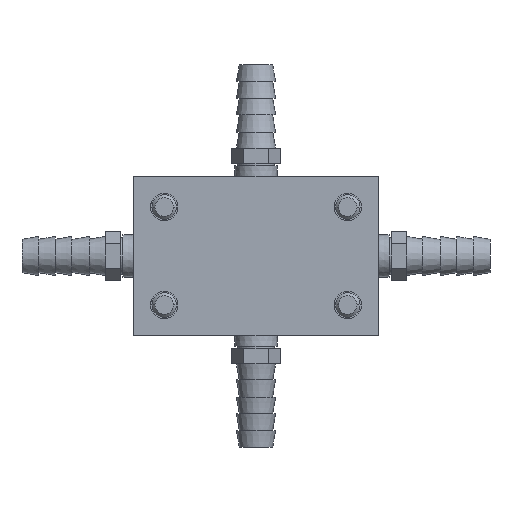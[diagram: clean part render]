
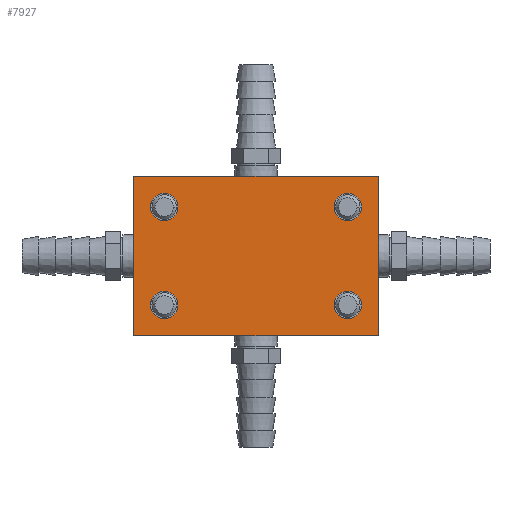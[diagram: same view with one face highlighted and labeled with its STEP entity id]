
A CAD part, left-side view. The second image highlights one B-rep face of the part: STEP entity #7927.
In plain terms, the highlighted planar face has unit normal (-1, 0, 0).
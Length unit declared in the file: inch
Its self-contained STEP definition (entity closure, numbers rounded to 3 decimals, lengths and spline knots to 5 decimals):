
#7665=CARTESIAN_POINT('',(-3.125,-0.9375,-0.5));
#7666=DIRECTION('',(1.,0.,0.));
#7667=DIRECTION('',(0.,-1.,0.));
#7668=AXIS2_PLACEMENT_3D('',#7665,#7666,#7667);
#7670=CARTESIAN_POINT('',(-3.125,-0.9375,-0.5));
#7671=DIRECTION('',(1.,0.,0.));
#7672=DIRECTION('',(0.,1.,0.));
#7673=AXIS2_PLACEMENT_3D('',#7670,#7671,#7672);
#7675=CARTESIAN_POINT('',(-3.125,0.9375,-0.5));
#7676=DIRECTION('',(1.,0.,0.));
#7677=DIRECTION('',(0.,-1.,0.));
#7678=AXIS2_PLACEMENT_3D('',#7675,#7676,#7677);
#7680=CARTESIAN_POINT('',(-3.125,0.9375,-0.5));
#7681=DIRECTION('',(1.,0.,0.));
#7682=DIRECTION('',(0.,1.,0.));
#7683=AXIS2_PLACEMENT_3D('',#7680,#7681,#7682);
#7685=CARTESIAN_POINT('',(-3.125,0.9375,0.5));
#7686=DIRECTION('',(1.,0.,0.));
#7687=DIRECTION('',(0.,-1.,0.));
#7688=AXIS2_PLACEMENT_3D('',#7685,#7686,#7687);
#7690=CARTESIAN_POINT('',(-3.125,0.9375,0.5));
#7691=DIRECTION('',(1.,0.,0.));
#7692=DIRECTION('',(0.,1.,0.));
#7693=AXIS2_PLACEMENT_3D('',#7690,#7691,#7692);
#7695=CARTESIAN_POINT('',(-3.125,-0.9375,0.5));
#7696=DIRECTION('',(1.,0.,0.));
#7697=DIRECTION('',(0.,-1.,0.));
#7698=AXIS2_PLACEMENT_3D('',#7695,#7696,#7697);
#7700=CARTESIAN_POINT('',(-3.125,-0.9375,0.5));
#7701=DIRECTION('',(1.,0.,0.));
#7702=DIRECTION('',(0.,1.,0.));
#7703=AXIS2_PLACEMENT_3D('',#7700,#7701,#7702);
#7797=DIRECTION('',(0.,0.,-1.));
#7798=VECTOR('',#7797,1.625);
#7799=CARTESIAN_POINT('',(-3.125,-1.25,0.8125));
#7800=LINE('',#7799,#7798);
#7805=DIRECTION('',(0.,1.,0.));
#7806=VECTOR('',#7805,2.5);
#7807=CARTESIAN_POINT('',(-3.125,-1.25,-0.8125));
#7808=LINE('',#7807,#7806);
#7809=DIRECTION('',(0.,0.,1.));
#7810=VECTOR('',#7809,1.625);
#7811=CARTESIAN_POINT('',(-3.125,1.25,-0.8125));
#7812=LINE('',#7811,#7810);
#7817=DIRECTION('',(0.,-1.,0.));
#7818=VECTOR('',#7817,2.5);
#7819=CARTESIAN_POINT('',(-3.125,1.25,0.8125));
#7820=LINE('',#7819,#7818);
#7829=CARTESIAN_POINT('',(-3.125,-1.25,-0.8125));
#7830=CARTESIAN_POINT('',(-3.125,1.25,-0.8125));
#7831=VERTEX_POINT('',#7829);
#7832=VERTEX_POINT('',#7830);
#7835=CARTESIAN_POINT('',(-3.125,-1.25,0.8125));
#7836=VERTEX_POINT('',#7835);
#7837=CARTESIAN_POINT('',(-3.125,1.25,0.8125));
#7838=VERTEX_POINT('',#7837);
#7841=CARTESIAN_POINT('',(-3.125,1.07813,0.5));
#7843=VERTEX_POINT('',#7841);
#7845=CARTESIAN_POINT('',(-3.125,0.79688,0.5));
#7847=VERTEX_POINT('',#7845);
#7849=CARTESIAN_POINT('',(-3.125,-0.79688,0.5));
#7851=VERTEX_POINT('',#7849);
#7853=CARTESIAN_POINT('',(-3.125,-1.07813,0.5));
#7855=VERTEX_POINT('',#7853);
#7857=CARTESIAN_POINT('',(-3.125,1.07813,-0.5));
#7859=VERTEX_POINT('',#7857);
#7861=CARTESIAN_POINT('',(-3.125,0.79688,-0.5));
#7863=VERTEX_POINT('',#7861);
#7865=CARTESIAN_POINT('',(-3.125,-0.79688,-0.5));
#7867=VERTEX_POINT('',#7865);
#7869=CARTESIAN_POINT('',(-3.125,-1.07813,-0.5));
#7871=VERTEX_POINT('',#7869);
#7889=CARTESIAN_POINT('',(-3.125,0.,0.));
#7890=DIRECTION('',(1.,0.,0.));
#7891=DIRECTION('',(0.,-1.,0.));
#7892=AXIS2_PLACEMENT_3D('',#7889,#7890,#7891);
#7893=PLANE('',#7892);
#7895=ORIENTED_EDGE('',*,*,#7894,.T.);
#7897=ORIENTED_EDGE('',*,*,#7896,.T.);
#7899=ORIENTED_EDGE('',*,*,#7898,.T.);
#7901=ORIENTED_EDGE('',*,*,#7900,.T.);
#7902=EDGE_LOOP('',(#7895,#7897,#7899,#7901));
#7903=FACE_OUTER_BOUND('',#7902,.F.);
#7905=ORIENTED_EDGE('',*,*,#7904,.F.);
#7907=ORIENTED_EDGE('',*,*,#7906,.F.);
#7908=EDGE_LOOP('',(#7905,#7907));
#7909=FACE_BOUND('',#7908,.F.);
#7910=ORIENTED_EDGE('',*,*,#7878,.F.);
#7912=ORIENTED_EDGE('',*,*,#7911,.F.);
#7913=EDGE_LOOP('',(#7910,#7912));
#7914=FACE_BOUND('',#7913,.F.);
#7916=ORIENTED_EDGE('',*,*,#7915,.F.);
#7918=ORIENTED_EDGE('',*,*,#7917,.F.);
#7919=EDGE_LOOP('',(#7916,#7918));
#7920=FACE_BOUND('',#7919,.F.);
#7922=ORIENTED_EDGE('',*,*,#7921,.F.);
#7924=ORIENTED_EDGE('',*,*,#7923,.F.);
#7925=EDGE_LOOP('',(#7922,#7924));
#7926=FACE_BOUND('',#7925,.F.);
#7669=CIRCLE('',#7668,0.14063);
#7674=CIRCLE('',#7673,0.14063);
#7679=CIRCLE('',#7678,0.14063);
#7684=CIRCLE('',#7683,0.14063);
#7689=CIRCLE('',#7688,0.14063);
#7694=CIRCLE('',#7693,0.14063);
#7699=CIRCLE('',#7698,0.14063);
#7704=CIRCLE('',#7703,0.14063);
#7878=EDGE_CURVE('',#7847,#7843,#7689,.T.);
#7894=EDGE_CURVE('',#7831,#7832,#7808,.T.);
#7896=EDGE_CURVE('',#7832,#7838,#7812,.T.);
#7898=EDGE_CURVE('',#7838,#7836,#7820,.T.);
#7900=EDGE_CURVE('',#7836,#7831,#7800,.T.);
#7904=EDGE_CURVE('',#7863,#7859,#7679,.T.);
#7906=EDGE_CURVE('',#7859,#7863,#7684,.T.);
#7911=EDGE_CURVE('',#7843,#7847,#7694,.T.);
#7915=EDGE_CURVE('',#7855,#7851,#7699,.T.);
#7917=EDGE_CURVE('',#7851,#7855,#7704,.T.);
#7921=EDGE_CURVE('',#7871,#7867,#7669,.T.);
#7923=EDGE_CURVE('',#7867,#7871,#7674,.T.);
#7927=ADVANCED_FACE('',(#7903,#7909,#7914,#7920,#7926),#7893,.F.);
